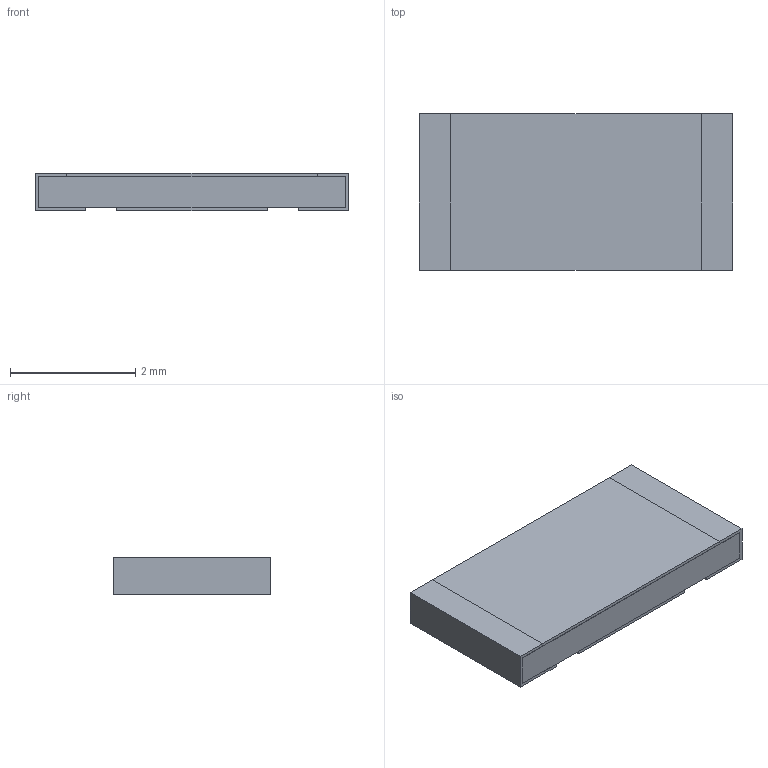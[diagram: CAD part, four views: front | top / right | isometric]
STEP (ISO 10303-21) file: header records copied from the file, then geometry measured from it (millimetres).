
FILE_DESCRIPTION(('STEP AP203'), '1');
FILE_NAME('P1-85-5', '', ('UNSPECIFIED'), ('UNSPECIFIED'), 'ASCON STEP Converter 1.6', 'ASCON Math Kernel', '');
FILE_SCHEMA(('CONFIG_CONTROL_DESIGN'));
Length unit declared in the file: millimetre
Bounding box: 5 x 2.5 x 0.6 mm (x, y, z)
Volume: 7.4 mm3; surface area: 85 mm2
Topology: 5 solids, 6 shells, 57 faces, 135 edges, 90 vertices
Faces by surface type: plane 53, cylinder 4
Entity records: 2143 total; most frequent: CARTESIAN_POINT 283, ORIENTED_EDGE 270, DIRECTION 259, EDGE_CURVE 135, LINE 127, VECTOR 127, VERTEX_POINT 90, AXIS2_PLACEMENT_3D 66
